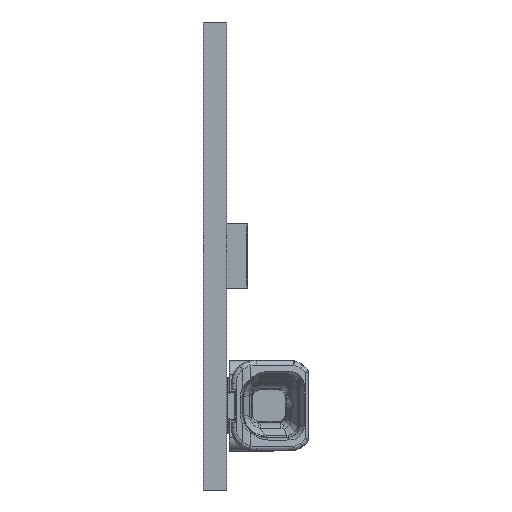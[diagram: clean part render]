
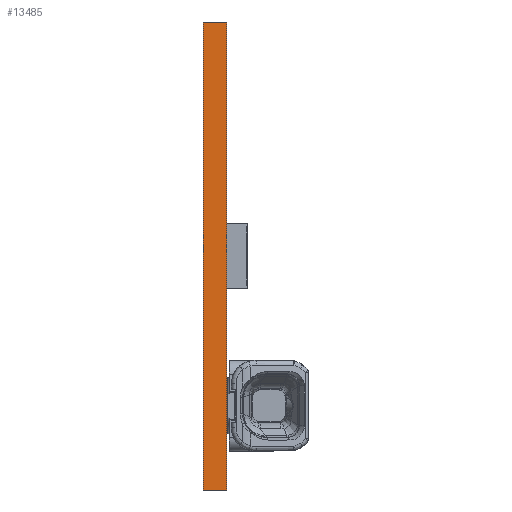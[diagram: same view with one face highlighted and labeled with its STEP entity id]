
A CAD part, left-side view. The second image highlights one B-rep face of the part: STEP entity #13485.
In plain terms, the highlighted planar face has unit normal (-1, 0, 0).
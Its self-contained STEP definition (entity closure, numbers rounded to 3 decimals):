
#714=LINE('',#18394,#1865);
#768=LINE('',#18535,#1919);
#803=LINE('',#18604,#1954);
#804=LINE('',#18606,#1955);
#1865=VECTOR('',#15198,1000.);
#1919=VECTOR('',#15286,1000.);
#1954=VECTOR('',#15389,1000.);
#1955=VECTOR('',#15392,1000.);
#3370=ORIENTED_EDGE('',*,*,#6632,.F.);
#3371=ORIENTED_EDGE('',*,*,#6738,.F.);
#3372=ORIENTED_EDGE('',*,*,#6702,.T.);
#3373=ORIENTED_EDGE('',*,*,#6737,.T.);
#6632=EDGE_CURVE('',#8385,#8386,#714,.T.);
#6702=EDGE_CURVE('',#8421,#8455,#768,.T.);
#6737=EDGE_CURVE('',#8455,#8386,#803,.T.);
#6738=EDGE_CURVE('',#8421,#8385,#804,.T.);
#8385=VERTEX_POINT('',#18393);
#8386=VERTEX_POINT('',#18395);
#8421=VERTEX_POINT('',#18466);
#8455=VERTEX_POINT('',#18534);
#9911=EDGE_LOOP('',(#3370,#3371,#3372,#3373));
#10669=FACE_BOUND('',#9911,.T.);
#11389=PLANE('',#14214);
#13485=ADVANCED_FACE('',(#10669),#11389,.T.);
#14214=AXIS2_PLACEMENT_3D('',#18605,#15390,#15391);
#15198=DIRECTION('',(0.,0.,-1.));
#15286=DIRECTION('',(0.,0.,-1.));
#15389=DIRECTION('',(0.,-1.,0.));
#15390=DIRECTION('',(-1.,0.,0.));
#15391=DIRECTION('',(0.,0.,1.));
#15392=DIRECTION('',(0.,-1.,0.));
#18393=CARTESIAN_POINT('',(-70.,0.,10.));
#18394=CARTESIAN_POINT('',(-70.,0.,10.));
#18395=CARTESIAN_POINT('',(-70.,0.,-10.));
#18466=CARTESIAN_POINT('',(-70.,1.,10.));
#18534=CARTESIAN_POINT('',(-70.,1.,-10.));
#18535=CARTESIAN_POINT('',(-70.,1.,10.));
#18604=CARTESIAN_POINT('',(-70.,1.,-10.));
#18605=CARTESIAN_POINT('',(-70.,1.,10.));
#18606=CARTESIAN_POINT('',(-70.,1.,10.));
